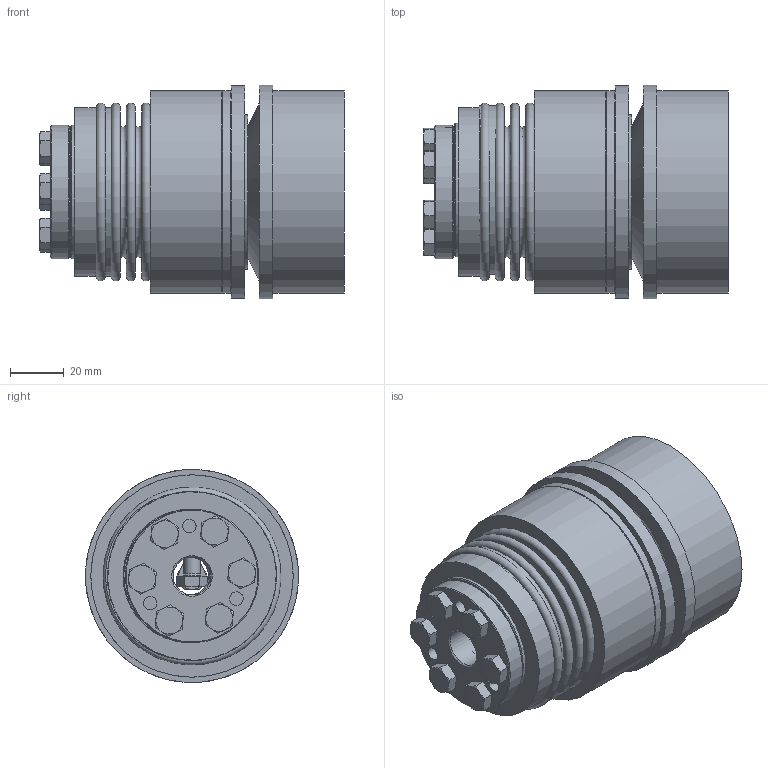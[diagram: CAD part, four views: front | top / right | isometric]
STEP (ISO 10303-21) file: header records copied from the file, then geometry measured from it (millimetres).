
FILE_DESCRIPTION( ( 'Unknown' ), '1' );
FILE_NAME( 'C:/Dokumente und Einstellungen/SKarpstein/Desktop/Korrigierte 3D Modelle/KBK-B-II/KBK-BII-60-100.stp', 'Unknown', ( 'Unknown' ), ( 'Unknown' ), 'XStep 1.0', 'Unknown', ' ' );
FILE_SCHEMA( ( 'automotive_design' ) );
Length unit declared in the file: millimetre
Products named in the file (12): Assem1; Assem2; BA60_Standard_2; Hex Screw GradeC_DIN_ISO 4018 - M6 x 20-NN_2; KB60_Standard_0; Stellring 60; Druckring 60; KBK L-I-60 Grundkörper; Konusbuchse 60; din_en_24017_m6x20; BK60_Standard_0; Flansch BI60
Bounding box: 113 x 79 x 79 mm (x, y, z)
Volume: 494078.9 mm3; surface area: 246520.9 mm2
Topology: 38 solids, 38 shells, 753 faces, 1577 edges, 1000 vertices
Faces by surface type: plane 328, cone 208, cylinder 171, torus 46
Full cylindrical faces by diameter (mm): 3.242 x6, 4 x6, 4.917 x18, 5 x9, 6 x38, 6.6 x30, 8.8 x7, 14 x3, 15 x4, 30.2 x5, 33 x2, 35 x4, 42 x2, 46 x7, 46.5 x2, 47 x2, 49.5 x5, 56.3 x4, 57.3 x4, 61.3 x2, 62.5 x3, 66 x2, 75 x4, 79 x2
Entity records: 5731 total; most frequent: CARTESIAN_POINT 1229, DIRECTION 960, ORIENTED_EDGE 618, AXIS2_PLACEMENT_3D 456, EDGE_LOOP 424, EDGE_CURVE 309, FACE_OUTER_BOUND 296, VERTEX_POINT 261
